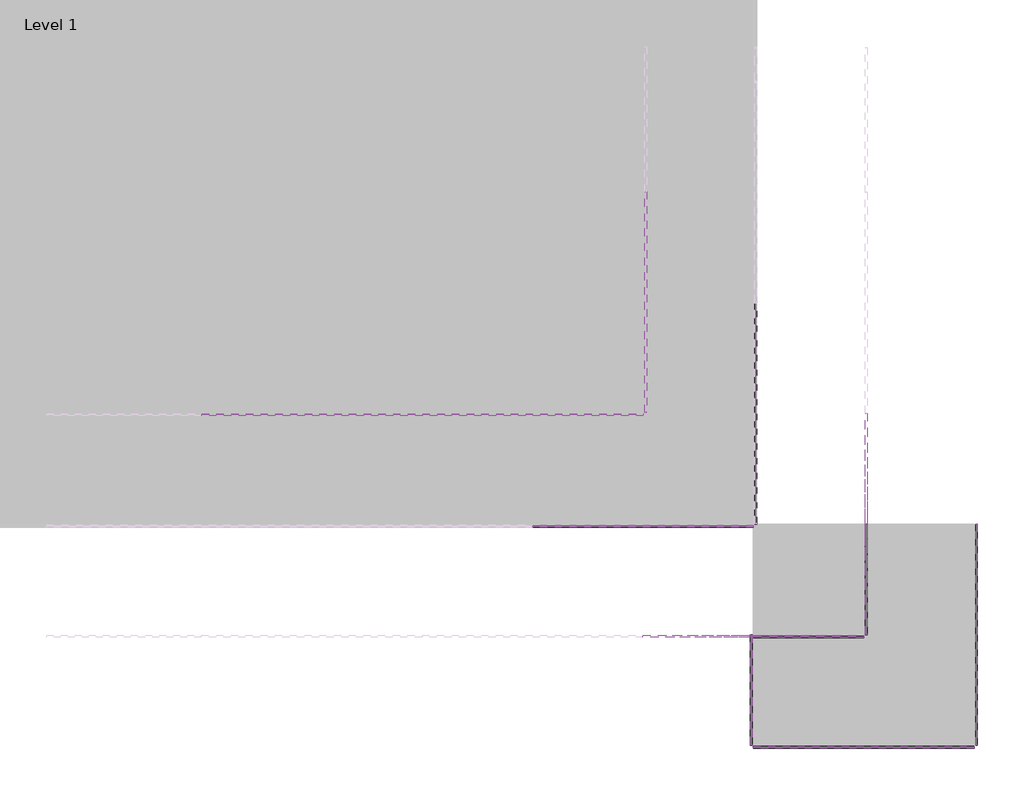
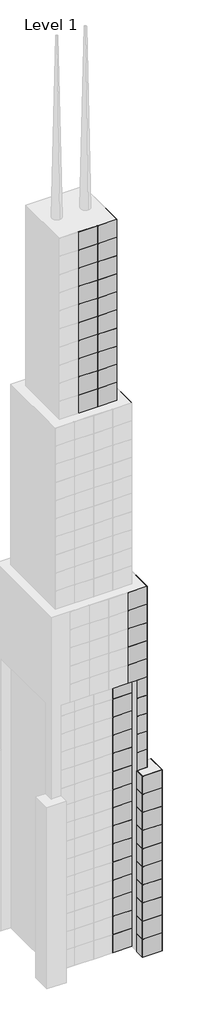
# One storey, part 3 of 15: 137 plates.
"""IFC4 building model written with IfcOpenShell, lengths in millimetres."""

from ifc_helpers import new_model, si_unit, origin, place, context, project, spatial, transform, mapped, element, save
from components import system_panel_glazed_9c75bc08, system_panel_glazed_0a0842ec, system_panel_glazed_aa64d645, system_panel_glazed_b248394d

model = new_model("IFC4")

# Units and contexts
model_context = context("Model", 3, world=origin())
ifc_project = project(units=[si_unit("LENGTHUNIT", "METRE", prefix="MILLI")], contexts=[model_context])

# Site, building, storey
site = spatial("IfcSite", under=ifc_project)
building = spatial("IfcBuilding", under=site)
storey = spatial("IfcBuildingStorey", under=building, Name="Level 1", Elevation=0.0)

# Plates
placement = place(None, origin())
system_panel_glazed_shape = system_panel_glazed_9c75bc08(model_context)
element("IfcPlate", 1, ObjectType="System Panel : Glazed", at=placement, inside=storey, context=model_context, shape_type="MappedRepresentation", body=[
    mapped(system_panel_glazed_shape, transform((-5599.4161695, -4980.0504489, 0.0), x_axis=(0.0, 1.0, 0.0), y_axis=(-1.0, 0.0, 0.0), z_axis=(0.0, 0.0, 1.0))),
])
element("IfcPlate", 2, ObjectType="System Panel : Glazed", at=placement, inside=storey, context=model_context, shape_type="MappedRepresentation", body=[
    mapped(system_panel_glazed_shape, transform((-5599.4161695, -4980.0504489, 3048.0), x_axis=(0.0, 1.0, 0.0), y_axis=(-1.0, 0.0, 0.0), z_axis=(0.0, 0.0, 1.0))),
])
element("IfcPlate", 3, ObjectType="System Panel : Glazed", at=placement, inside=storey, context=model_context, shape_type="MappedRepresentation", body=[
    mapped(system_panel_glazed_shape, transform((-5599.4161695, -4980.0504489, 6096.0), x_axis=(0.0, 1.0, 0.0), y_axis=(-1.0, 0.0, 0.0), z_axis=(0.0, 0.0, 1.0))),
])
element("IfcPlate", 4, ObjectType="System Panel : Glazed", at=placement, inside=storey, context=model_context, shape_type="MappedRepresentation", body=[
    mapped(system_panel_glazed_shape, transform((-5599.4161695, -4980.0504489, 9144.0), x_axis=(0.0, 1.0, 0.0), y_axis=(-1.0, 0.0, 0.0), z_axis=(0.0, 0.0, 1.0))),
])
element("IfcPlate", 5, ObjectType="System Panel : Glazed", at=placement, inside=storey, context=model_context, shape_type="MappedRepresentation", body=[
    mapped(system_panel_glazed_shape, transform((-5599.4161695, -4980.0504489, 12192.0), x_axis=(0.0, 1.0, 0.0), y_axis=(-1.0, 0.0, 0.0), z_axis=(0.0, 0.0, 1.0))),
])
element("IfcPlate", 6, ObjectType="System Panel : Glazed", at=placement, inside=storey, context=model_context, shape_type="MappedRepresentation", body=[
    mapped(system_panel_glazed_shape, transform((-5599.4161695, -4980.0504489, 15240.0), x_axis=(0.0, 1.0, 0.0), y_axis=(-1.0, 0.0, 0.0), z_axis=(0.0, 0.0, 1.0))),
])
element("IfcPlate", 7, ObjectType="System Panel : Glazed", at=placement, inside=storey, context=model_context, shape_type="MappedRepresentation", body=[
    mapped(system_panel_glazed_shape, transform((-5599.4161695, -4980.0504489, 18288.0), x_axis=(0.0, 1.0, 0.0), y_axis=(-1.0, 0.0, 0.0), z_axis=(0.0, 0.0, 1.0))),
])
element("IfcPlate", 8, ObjectType="System Panel : Glazed", at=placement, inside=storey, context=model_context, shape_type="MappedRepresentation", body=[
    mapped(system_panel_glazed_shape, transform((-5599.4161695, -4980.0504489, 21336.0), x_axis=(0.0, 1.0, 0.0), y_axis=(-1.0, 0.0, 0.0), z_axis=(0.0, 0.0, 1.0))),
])
element("IfcPlate", 9, ObjectType="System Panel : Glazed", at=placement, inside=storey, context=model_context, shape_type="MappedRepresentation", body=[
    mapped(system_panel_glazed_shape, transform((-5599.4161695, -4980.0504489, 24384.0), x_axis=(0.0, 1.0, 0.0), y_axis=(-1.0, 0.0, 0.0), z_axis=(0.0, 0.0, 1.0))),
])
element("IfcPlate", 10, ObjectType="System Panel : Glazed", at=placement, inside=storey, context=model_context, shape_type="MappedRepresentation", body=[
    mapped(system_panel_glazed_shape, transform((-5599.4161695, -4980.0504489, 27432.0), x_axis=(0.0, 1.0, 0.0), y_axis=(-1.0, 0.0, 0.0), z_axis=(0.0, 0.0, 1.0))),
])
element("IfcPlate", 11, ObjectType="System Panel : Glazed", at=placement, inside=storey, context=model_context, shape_type="MappedRepresentation", body=[
    mapped(system_panel_glazed_shape, transform((-5599.4161695, -4980.0504489, 30480.0), x_axis=(0.0, 1.0, 0.0), y_axis=(-1.0, 0.0, 0.0), z_axis=(0.0, 0.0, 1.0))),
])
element("IfcPlate", 12, ObjectType="System Panel : Glazed", at=placement, inside=storey, context=model_context, shape_type="MappedRepresentation", body=[
    mapped(system_panel_glazed_shape, transform((-5599.4161695, -4980.0504489, 33528.0), x_axis=(0.0, 1.0, 0.0), y_axis=(-1.0, 0.0, 0.0), z_axis=(0.0, 0.0, 1.0))),
])
element("IfcPlate", 13, ObjectType="System Panel : Glazed", at=placement, inside=storey, context=model_context, shape_type="MappedRepresentation", body=[
    mapped(system_panel_glazed_shape, transform((-5599.4161695, -4980.0504489, 36576.0), x_axis=(0.0, 1.0, 0.0), y_axis=(-1.0, 0.0, 0.0), z_axis=(0.0, 0.0, 1.0))),
])
element("IfcPlate", 14, ObjectType="System Panel : Glazed", at=placement, inside=storey, context=model_context, shape_type="MappedRepresentation", body=[
    mapped(system_panel_glazed_shape, transform((-5599.4161695, -4980.0504489, 39624.0), x_axis=(0.0, 1.0, 0.0), y_axis=(-1.0, 0.0, 0.0), z_axis=(0.0, 0.0, 1.0))),
])
element("IfcPlate", 15, ObjectType="System Panel : Glazed", at=placement, inside=storey, context=model_context, shape_type="MappedRepresentation", body=[
    mapped(system_panel_glazed_shape, transform((-5599.4161695, -4980.0504489, 42672.0), x_axis=(0.0, 1.0, 0.0), y_axis=(-1.0, 0.0, 0.0), z_axis=(0.0, 0.0, 1.0))),
])
element("IfcPlate", 16, ObjectType="System Panel : Glazed", at=placement, inside=storey, context=model_context, shape_type="MappedRepresentation", body=[
    mapped(system_panel_glazed_shape, transform((-6361.4161695, -5742.0504489, 0.0), x_axis=(1.0, 0.0, 0.0), y_axis=(0.0, 1.0, 0.0), z_axis=(0.0, 0.0, 1.0))),
])
element("IfcPlate", 17, ObjectType="System Panel : Glazed", at=placement, inside=storey, context=model_context, shape_type="MappedRepresentation", body=[
    mapped(system_panel_glazed_shape, transform((-6361.4161695, -5742.0504489, 3048.0), x_axis=(1.0, 0.0, 0.0), y_axis=(0.0, 1.0, 0.0), z_axis=(0.0, 0.0, 1.0))),
])
element("IfcPlate", 18, ObjectType="System Panel : Glazed", at=placement, inside=storey, context=model_context, shape_type="MappedRepresentation", body=[
    mapped(system_panel_glazed_shape, transform((-6361.4161695, -5742.0504489, 6096.0), x_axis=(1.0, 0.0, 0.0), y_axis=(0.0, 1.0, 0.0), z_axis=(0.0, 0.0, 1.0))),
])
element("IfcPlate", 19, ObjectType="System Panel : Glazed", at=placement, inside=storey, context=model_context, shape_type="MappedRepresentation", body=[
    mapped(system_panel_glazed_shape, transform((-6361.4161695, -5742.0504489, 9144.0), x_axis=(1.0, 0.0, 0.0), y_axis=(0.0, 1.0, 0.0), z_axis=(0.0, 0.0, 1.0))),
])
element("IfcPlate", 20, ObjectType="System Panel : Glazed", at=placement, inside=storey, context=model_context, shape_type="MappedRepresentation", body=[
    mapped(system_panel_glazed_shape, transform((-6361.4161695, -5742.0504489, 12192.0), x_axis=(1.0, 0.0, 0.0), y_axis=(0.0, 1.0, 0.0), z_axis=(0.0, 0.0, 1.0))),
])
element("IfcPlate", 21, ObjectType="System Panel : Glazed", at=placement, inside=storey, context=model_context, shape_type="MappedRepresentation", body=[
    mapped(system_panel_glazed_shape, transform((-6361.4161695, -5742.0504489, 15240.0), x_axis=(1.0, 0.0, 0.0), y_axis=(0.0, 1.0, 0.0), z_axis=(0.0, 0.0, 1.0))),
])
element("IfcPlate", 22, ObjectType="System Panel : Glazed", at=placement, inside=storey, context=model_context, shape_type="MappedRepresentation", body=[
    mapped(system_panel_glazed_shape, transform((-6361.4161695, -5742.0504489, 18288.0), x_axis=(1.0, 0.0, 0.0), y_axis=(0.0, 1.0, 0.0), z_axis=(0.0, 0.0, 1.0))),
])
element("IfcPlate", 23, ObjectType="System Panel : Glazed", at=placement, inside=storey, context=model_context, shape_type="MappedRepresentation", body=[
    mapped(system_panel_glazed_shape, transform((-6361.4161695, -5742.0504489, 21336.0), x_axis=(1.0, 0.0, 0.0), y_axis=(0.0, 1.0, 0.0), z_axis=(0.0, 0.0, 1.0))),
])
element("IfcPlate", 24, ObjectType="System Panel : Glazed", at=placement, inside=storey, context=model_context, shape_type="MappedRepresentation", body=[
    mapped(system_panel_glazed_shape, transform((-6361.4161695, -5742.0504489, 24384.0), x_axis=(1.0, 0.0, 0.0), y_axis=(0.0, 1.0, 0.0), z_axis=(0.0, 0.0, 1.0))),
])
element("IfcPlate", 25, ObjectType="System Panel : Glazed", at=placement, inside=storey, context=model_context, shape_type="MappedRepresentation", body=[
    mapped(system_panel_glazed_shape, transform((-6361.4161695, -5742.0504489, 27432.0), x_axis=(1.0, 0.0, 0.0), y_axis=(0.0, 1.0, 0.0), z_axis=(0.0, 0.0, 1.0))),
])
element("IfcPlate", 26, ObjectType="System Panel : Glazed", at=placement, inside=storey, context=model_context, shape_type="MappedRepresentation", body=[
    mapped(system_panel_glazed_shape, transform((-6361.4161695, -5742.0504489, 30480.0), x_axis=(1.0, 0.0, 0.0), y_axis=(0.0, 1.0, 0.0), z_axis=(0.0, 0.0, 1.0))),
])
element("IfcPlate", 27, ObjectType="System Panel : Glazed", at=placement, inside=storey, context=model_context, shape_type="MappedRepresentation", body=[
    mapped(system_panel_glazed_shape, transform((-6361.4161695, -5742.0504489, 33528.0), x_axis=(1.0, 0.0, 0.0), y_axis=(0.0, 1.0, 0.0), z_axis=(0.0, 0.0, 1.0))),
])
element("IfcPlate", 28, ObjectType="System Panel : Glazed", at=placement, inside=storey, context=model_context, shape_type="MappedRepresentation", body=[
    mapped(system_panel_glazed_shape, transform((-6361.4161695, -5742.0504489, 36576.0), x_axis=(1.0, 0.0, 0.0), y_axis=(0.0, 1.0, 0.0), z_axis=(0.0, 0.0, 1.0))),
])
element("IfcPlate", 29, ObjectType="System Panel : Glazed", at=placement, inside=storey, context=model_context, shape_type="MappedRepresentation", body=[
    mapped(system_panel_glazed_shape, transform((-6361.4161695, -5742.0504489, 39624.0), x_axis=(1.0, 0.0, 0.0), y_axis=(0.0, 1.0, 0.0), z_axis=(0.0, 0.0, 1.0))),
])
element("IfcPlate", 30, ObjectType="System Panel : Glazed", at=placement, inside=storey, context=model_context, shape_type="MappedRepresentation", body=[
    mapped(system_panel_glazed_shape, transform((-6361.4161695, -5742.0504489, 42672.0), x_axis=(1.0, 0.0, 0.0), y_axis=(0.0, 1.0, 0.0), z_axis=(0.0, 0.0, 1.0))),
])
element("IfcPlate", 31, ObjectType="System Panel : Glazed", at=placement, inside=storey, context=model_context, shape_type="MappedRepresentation", body=[
    mapped(system_panel_glazed_shape, transform((-7123.4161695, -6504.0504489, 0.0), x_axis=(0.0, -1.0, 0.0), y_axis=(1.0, 0.0, 0.0), z_axis=(0.0, 0.0, 1.0))),
])
element("IfcPlate", 32, ObjectType="System Panel : Glazed", at=placement, inside=storey, context=model_context, shape_type="MappedRepresentation", body=[
    mapped(system_panel_glazed_shape, transform((-7123.4161695, -6504.0504489, 3048.0), x_axis=(0.0, -1.0, 0.0), y_axis=(1.0, 0.0, 0.0), z_axis=(0.0, 0.0, 1.0))),
])
element("IfcPlate", 33, ObjectType="System Panel : Glazed", at=placement, inside=storey, context=model_context, shape_type="MappedRepresentation", body=[
    mapped(system_panel_glazed_shape, transform((-7123.4161695, -6504.0504489, 6096.0), x_axis=(0.0, -1.0, 0.0), y_axis=(1.0, 0.0, 0.0), z_axis=(0.0, 0.0, 1.0))),
])
element("IfcPlate", 34, ObjectType="System Panel : Glazed", at=placement, inside=storey, context=model_context, shape_type="MappedRepresentation", body=[
    mapped(system_panel_glazed_shape, transform((-7123.4161695, -6504.0504489, 9144.0), x_axis=(0.0, -1.0, 0.0), y_axis=(1.0, 0.0, 0.0), z_axis=(0.0, 0.0, 1.0))),
])
element("IfcPlate", 35, ObjectType="System Panel : Glazed", at=placement, inside=storey, context=model_context, shape_type="MappedRepresentation", body=[
    mapped(system_panel_glazed_shape, transform((-7123.4161695, -6504.0504489, 12192.0), x_axis=(0.0, -1.0, 0.0), y_axis=(1.0, 0.0, 0.0), z_axis=(0.0, 0.0, 1.0))),
])
element("IfcPlate", 36, ObjectType="System Panel : Glazed", at=placement, inside=storey, context=model_context, shape_type="MappedRepresentation", body=[
    mapped(system_panel_glazed_shape, transform((-7123.4161695, -6504.0504489, 15240.0), x_axis=(0.0, -1.0, 0.0), y_axis=(1.0, 0.0, 0.0), z_axis=(0.0, 0.0, 1.0))),
])
element("IfcPlate", 37, ObjectType="System Panel : Glazed", at=placement, inside=storey, context=model_context, shape_type="MappedRepresentation", body=[
    mapped(system_panel_glazed_shape, transform((-7123.4161695, -6504.0504489, 18288.0), x_axis=(0.0, -1.0, 0.0), y_axis=(1.0, 0.0, 0.0), z_axis=(0.0, 0.0, 1.0))),
])
element("IfcPlate", 38, ObjectType="System Panel : Glazed", at=placement, inside=storey, context=model_context, shape_type="MappedRepresentation", body=[
    mapped(system_panel_glazed_shape, transform((-7123.4161695, -6504.0504489, 21336.0), x_axis=(0.0, -1.0, 0.0), y_axis=(1.0, 0.0, 0.0), z_axis=(0.0, 0.0, 1.0))),
])
element("IfcPlate", 39, ObjectType="System Panel : Glazed", at=placement, inside=storey, context=model_context, shape_type="MappedRepresentation", body=[
    mapped(system_panel_glazed_shape, transform((-7123.4161695, -6504.0504489, 24384.0), x_axis=(0.0, -1.0, 0.0), y_axis=(1.0, 0.0, 0.0), z_axis=(0.0, 0.0, 1.0))),
])
element("IfcPlate", 40, ObjectType="System Panel : Glazed", at=placement, inside=storey, context=model_context, shape_type="MappedRepresentation", body=[
    mapped(system_panel_glazed_shape, transform((-7123.4161695, -6504.0504489, 27432.0), x_axis=(0.0, -1.0, 0.0), y_axis=(1.0, 0.0, 0.0), z_axis=(0.0, 0.0, 1.0))),
])
system_panel_glazed_2_shape = system_panel_glazed_0a0842ec(model_context)
element("IfcPlate", 41, ObjectType="System Panel : Glazed", at=placement, inside=storey, context=model_context, shape_type="MappedRepresentation", body=[
    mapped(system_panel_glazed_2_shape, transform((-5599.4161695, -4218.0504489, 45720.0), x_axis=(0.0, 1.0, 0.0), y_axis=(-1.0, 0.0, 0.0), z_axis=(0.0, 0.0, 1.0))),
])
element("IfcPlate", 42, ObjectType="System Panel : Glazed", at=placement, inside=storey, context=model_context, shape_type="MappedRepresentation", body=[
    mapped(system_panel_glazed_2_shape, transform((-7123.4161695, -5742.0504489, 45720.0), x_axis=(1.0, 0.0, 0.0), y_axis=(0.0, 1.0, 0.0), z_axis=(0.0, 0.0, 1.0))),
])
system_panel_glazed_3_shape = system_panel_glazed_aa64d645(model_context)
element("IfcPlate", 43, ObjectType="System Panel : Glazed", at=placement, inside=storey, context=model_context, shape_type="MappedRepresentation", body=[
    mapped(system_panel_glazed_3_shape, transform((-5599.4161695, -4218.0504489, 48768.0), x_axis=(0.0, 1.0, 0.0), y_axis=(-1.0, 0.0, 0.0), z_axis=(0.0, 0.0, 1.0))),
])
element("IfcPlate", 44, ObjectType="System Panel : Glazed", at=placement, inside=storey, context=model_context, shape_type="MappedRepresentation", body=[
    mapped(system_panel_glazed_3_shape, transform((-5599.4161695, -4218.0504489, 51816.0), x_axis=(0.0, 1.0, 0.0), y_axis=(-1.0, 0.0, 0.0), z_axis=(0.0, 0.0, 1.0))),
])
element("IfcPlate", 45, ObjectType="System Panel : Glazed", at=placement, inside=storey, context=model_context, shape_type="MappedRepresentation", body=[
    mapped(system_panel_glazed_3_shape, transform((-5599.4161695, -4218.0504489, 54864.0), x_axis=(0.0, 1.0, 0.0), y_axis=(-1.0, 0.0, 0.0), z_axis=(0.0, 0.0, 1.0))),
])
element("IfcPlate", 46, ObjectType="System Panel : Glazed", at=placement, inside=storey, context=model_context, shape_type="MappedRepresentation", body=[
    mapped(system_panel_glazed_3_shape, transform((-5599.4161695, -4218.0504489, 57912.0), x_axis=(0.0, 1.0, 0.0), y_axis=(-1.0, 0.0, 0.0), z_axis=(0.0, 0.0, 1.0))),
])
element("IfcPlate", 47, ObjectType="System Panel : Glazed", at=placement, inside=storey, context=model_context, shape_type="MappedRepresentation", body=[
    mapped(system_panel_glazed_3_shape, transform((-7123.4161695, -5742.0504489, 48768.0), x_axis=(1.0, 0.0, 0.0), y_axis=(0.0, 1.0, 0.0), z_axis=(0.0, 0.0, 1.0))),
])
element("IfcPlate", 48, ObjectType="System Panel : Glazed", at=placement, inside=storey, context=model_context, shape_type="MappedRepresentation", body=[
    mapped(system_panel_glazed_3_shape, transform((-7123.4161695, -5742.0504489, 51816.0), x_axis=(1.0, 0.0, 0.0), y_axis=(0.0, 1.0, 0.0), z_axis=(0.0, 0.0, 1.0))),
])
element("IfcPlate", 49, ObjectType="System Panel : Glazed", at=placement, inside=storey, context=model_context, shape_type="MappedRepresentation", body=[
    mapped(system_panel_glazed_3_shape, transform((-7123.4161695, -5742.0504489, 54864.0), x_axis=(1.0, 0.0, 0.0), y_axis=(0.0, 1.0, 0.0), z_axis=(0.0, 0.0, 1.0))),
])
element("IfcPlate", 50, ObjectType="System Panel : Glazed", at=placement, inside=storey, context=model_context, shape_type="MappedRepresentation", body=[
    mapped(system_panel_glazed_3_shape, transform((-7123.4161695, -5742.0504489, 57912.0), x_axis=(1.0, 0.0, 0.0), y_axis=(0.0, 1.0, 0.0), z_axis=(0.0, 0.0, 1.0))),
])
element("IfcPlate", 51, ObjectType="System Panel : Glazed", at=placement, inside=storey, context=model_context, shape_type="MappedRepresentation", body=[
    mapped(system_panel_glazed_3_shape, transform((-7123.4161695, -2694.0504489, 60960.0), x_axis=(0.0, 1.0, 0.0), y_axis=(-1.0, 0.0, 0.0), z_axis=(0.0, 0.0, 1.0))),
])
element("IfcPlate", 52, ObjectType="System Panel : Glazed", at=placement, inside=storey, context=model_context, shape_type="MappedRepresentation", body=[
    mapped(system_panel_glazed_3_shape, transform((-7123.4161695, -2694.0504489, 64008.0), x_axis=(0.0, 1.0, 0.0), y_axis=(-1.0, 0.0, 0.0), z_axis=(0.0, 0.0, 1.0))),
])
element("IfcPlate", 53, ObjectType="System Panel : Glazed", at=placement, inside=storey, context=model_context, shape_type="MappedRepresentation", body=[
    mapped(system_panel_glazed_3_shape, transform((-7123.4161695, -2694.0504489, 67056.0), x_axis=(0.0, 1.0, 0.0), y_axis=(-1.0, 0.0, 0.0), z_axis=(0.0, 0.0, 1.0))),
])
element("IfcPlate", 54, ObjectType="System Panel : Glazed", at=placement, inside=storey, context=model_context, shape_type="MappedRepresentation", body=[
    mapped(system_panel_glazed_3_shape, transform((-7123.4161695, -2694.0504489, 70104.0), x_axis=(0.0, 1.0, 0.0), y_axis=(-1.0, 0.0, 0.0), z_axis=(0.0, 0.0, 1.0))),
])
element("IfcPlate", 55, ObjectType="System Panel : Glazed", at=placement, inside=storey, context=model_context, shape_type="MappedRepresentation", body=[
    mapped(system_panel_glazed_3_shape, transform((-7123.4161695, -2694.0504489, 73152.0), x_axis=(0.0, 1.0, 0.0), y_axis=(-1.0, 0.0, 0.0), z_axis=(0.0, 0.0, 1.0))),
])
element("IfcPlate", 56, ObjectType="System Panel : Glazed", at=placement, inside=storey, context=model_context, shape_type="MappedRepresentation", body=[
    mapped(system_panel_glazed_3_shape, transform((-7123.4161695, -2694.0504489, 76200.0), x_axis=(0.0, 1.0, 0.0), y_axis=(-1.0, 0.0, 0.0), z_axis=(0.0, 0.0, 1.0))),
])
element("IfcPlate", 57, ObjectType="System Panel : Glazed", at=placement, inside=storey, context=model_context, shape_type="MappedRepresentation", body=[
    mapped(system_panel_glazed_3_shape, transform((-7123.4161695, -2694.0504489, 79248.0), x_axis=(0.0, 1.0, 0.0), y_axis=(-1.0, 0.0, 0.0), z_axis=(0.0, 0.0, 1.0))),
])
element("IfcPlate", 58, ObjectType="System Panel : Glazed", at=placement, inside=storey, context=model_context, shape_type="MappedRepresentation", body=[
    mapped(system_panel_glazed_3_shape, transform((-7123.4161695, -2694.0504489, 82296.0), x_axis=(0.0, 1.0, 0.0), y_axis=(-1.0, 0.0, 0.0), z_axis=(0.0, 0.0, 1.0))),
])
element("IfcPlate", 59, ObjectType="System Panel : Glazed", at=placement, inside=storey, context=model_context, shape_type="MappedRepresentation", body=[
    mapped(system_panel_glazed_3_shape, transform((-7123.4161695, -2694.0504489, 85344.0), x_axis=(0.0, 1.0, 0.0), y_axis=(-1.0, 0.0, 0.0), z_axis=(0.0, 0.0, 1.0))),
])
element("IfcPlate", 60, ObjectType="System Panel : Glazed", at=placement, inside=storey, context=model_context, shape_type="MappedRepresentation", body=[
    mapped(system_panel_glazed_3_shape, transform((-7123.4161695, -2694.0504489, 88392.0), x_axis=(0.0, 1.0, 0.0), y_axis=(-1.0, 0.0, 0.0), z_axis=(0.0, 0.0, 1.0))),
])
element("IfcPlate", 61, ObjectType="System Panel : Glazed", at=placement, inside=storey, context=model_context, shape_type="MappedRepresentation", body=[
    mapped(system_panel_glazed_3_shape, transform((-8641.8488996, -1170.0504489, 91440.0), x_axis=(0.0, 1.0, 0.0), y_axis=(-1.0, 0.0, 0.0), z_axis=(0.0, 0.0, 1.0))),
])
element("IfcPlate", 62, ObjectType="System Panel : Glazed", at=placement, inside=storey, context=model_context, shape_type="MappedRepresentation", body=[
    mapped(system_panel_glazed_3_shape, transform((-8641.8488996, -1170.0504489, 94488.0), x_axis=(0.0, 1.0, 0.0), y_axis=(-1.0, 0.0, 0.0), z_axis=(0.0, 0.0, 1.0))),
])
element("IfcPlate", 63, ObjectType="System Panel : Glazed", at=placement, inside=storey, context=model_context, shape_type="MappedRepresentation", body=[
    mapped(system_panel_glazed_3_shape, transform((-8641.8488996, -1170.0504489, 97536.0), x_axis=(0.0, 1.0, 0.0), y_axis=(-1.0, 0.0, 0.0), z_axis=(0.0, 0.0, 1.0))),
])
element("IfcPlate", 64, ObjectType="System Panel : Glazed", at=placement, inside=storey, context=model_context, shape_type="MappedRepresentation", body=[
    mapped(system_panel_glazed_3_shape, transform((-8641.8488996, -1170.0504489, 100584.0), x_axis=(0.0, 1.0, 0.0), y_axis=(-1.0, 0.0, 0.0), z_axis=(0.0, 0.0, 1.0))),
])
element("IfcPlate", 65, ObjectType="System Panel : Glazed", at=placement, inside=storey, context=model_context, shape_type="MappedRepresentation", body=[
    mapped(system_panel_glazed_3_shape, transform((-8641.8488996, -1170.0504489, 103632.0), x_axis=(0.0, 1.0, 0.0), y_axis=(-1.0, 0.0, 0.0), z_axis=(0.0, 0.0, 1.0))),
])
element("IfcPlate", 66, ObjectType="System Panel : Glazed", at=placement, inside=storey, context=model_context, shape_type="MappedRepresentation", body=[
    mapped(system_panel_glazed_3_shape, transform((-8641.8488996, -1170.0504489, 106680.0), x_axis=(0.0, 1.0, 0.0), y_axis=(-1.0, 0.0, 0.0), z_axis=(0.0, 0.0, 1.0))),
])
element("IfcPlate", 67, ObjectType="System Panel : Glazed", at=placement, inside=storey, context=model_context, shape_type="MappedRepresentation", body=[
    mapped(system_panel_glazed_3_shape, transform((-8641.8488996, -1170.0504489, 109728.0), x_axis=(0.0, 1.0, 0.0), y_axis=(-1.0, 0.0, 0.0), z_axis=(0.0, 0.0, 1.0))),
])
element("IfcPlate", 68, ObjectType="System Panel : Glazed", at=placement, inside=storey, context=model_context, shape_type="MappedRepresentation", body=[
    mapped(system_panel_glazed_3_shape, transform((-8641.8488996, -1170.0504489, 112776.0), x_axis=(0.0, 1.0, 0.0), y_axis=(-1.0, 0.0, 0.0), z_axis=(0.0, 0.0, 1.0))),
])
element("IfcPlate", 69, ObjectType="System Panel : Glazed", at=placement, inside=storey, context=model_context, shape_type="MappedRepresentation", body=[
    mapped(system_panel_glazed_3_shape, transform((-8641.8488996, -1170.0504489, 115824.0), x_axis=(0.0, 1.0, 0.0), y_axis=(-1.0, 0.0, 0.0), z_axis=(0.0, 0.0, 1.0))),
])
element("IfcPlate", 70, ObjectType="System Panel : Glazed", at=placement, inside=storey, context=model_context, shape_type="MappedRepresentation", body=[
    mapped(system_panel_glazed_3_shape, transform((-8641.8488996, -1170.0504489, 118872.0), x_axis=(0.0, 1.0, 0.0), y_axis=(-1.0, 0.0, 0.0), z_axis=(0.0, 0.0, 1.0))),
])
element("IfcPlate", 71, ObjectType="System Panel : Glazed", at=placement, inside=storey, context=model_context, shape_type="MappedRepresentation", body=[
    mapped(system_panel_glazed_3_shape, transform((-13213.8488996, -2694.0504489, 91440.0), x_axis=(1.0, 0.0, 0.0), y_axis=(0.0, 1.0, 0.0), z_axis=(0.0, 0.0, 1.0))),
])
element("IfcPlate", 72, ObjectType="System Panel : Glazed", at=placement, inside=storey, context=model_context, shape_type="MappedRepresentation", body=[
    mapped(system_panel_glazed_3_shape, transform((-10165.8488996, -2694.0504489, 91440.0), x_axis=(1.0, 0.0, 0.0), y_axis=(0.0, 1.0, 0.0), z_axis=(0.0, 0.0, 1.0))),
])
element("IfcPlate", 73, ObjectType="System Panel : Glazed", at=placement, inside=storey, context=model_context, shape_type="MappedRepresentation", body=[
    mapped(system_panel_glazed_3_shape, transform((-13213.8488996, -2694.0504489, 94488.0), x_axis=(1.0, 0.0, 0.0), y_axis=(0.0, 1.0, 0.0), z_axis=(0.0, 0.0, 1.0))),
])
element("IfcPlate", 74, ObjectType="System Panel : Glazed", at=placement, inside=storey, context=model_context, shape_type="MappedRepresentation", body=[
    mapped(system_panel_glazed_3_shape, transform((-10165.8488996, -2694.0504489, 94488.0), x_axis=(1.0, 0.0, 0.0), y_axis=(0.0, 1.0, 0.0), z_axis=(0.0, 0.0, 1.0))),
])
element("IfcPlate", 75, ObjectType="System Panel : Glazed", at=placement, inside=storey, context=model_context, shape_type="MappedRepresentation", body=[
    mapped(system_panel_glazed_3_shape, transform((-13213.8488996, -2694.0504489, 97536.0), x_axis=(1.0, 0.0, 0.0), y_axis=(0.0, 1.0, 0.0), z_axis=(0.0, 0.0, 1.0))),
])
element("IfcPlate", 76, ObjectType="System Panel : Glazed", at=placement, inside=storey, context=model_context, shape_type="MappedRepresentation", body=[
    mapped(system_panel_glazed_3_shape, transform((-10165.8488996, -2694.0504489, 97536.0), x_axis=(1.0, 0.0, 0.0), y_axis=(0.0, 1.0, 0.0), z_axis=(0.0, 0.0, 1.0))),
])
element("IfcPlate", 77, ObjectType="System Panel : Glazed", at=placement, inside=storey, context=model_context, shape_type="MappedRepresentation", body=[
    mapped(system_panel_glazed_3_shape, transform((-13213.8488996, -2694.0504489, 100584.0), x_axis=(1.0, 0.0, 0.0), y_axis=(0.0, 1.0, 0.0), z_axis=(0.0, 0.0, 1.0))),
])
element("IfcPlate", 78, ObjectType="System Panel : Glazed", at=placement, inside=storey, context=model_context, shape_type="MappedRepresentation", body=[
    mapped(system_panel_glazed_3_shape, transform((-10165.8488996, -2694.0504489, 100584.0), x_axis=(1.0, 0.0, 0.0), y_axis=(0.0, 1.0, 0.0), z_axis=(0.0, 0.0, 1.0))),
])
element("IfcPlate", 79, ObjectType="System Panel : Glazed", at=placement, inside=storey, context=model_context, shape_type="MappedRepresentation", body=[
    mapped(system_panel_glazed_3_shape, transform((-13213.8488996, -2694.0504489, 103632.0), x_axis=(1.0, 0.0, 0.0), y_axis=(0.0, 1.0, 0.0), z_axis=(0.0, 0.0, 1.0))),
])
element("IfcPlate", 80, ObjectType="System Panel : Glazed", at=placement, inside=storey, context=model_context, shape_type="MappedRepresentation", body=[
    mapped(system_panel_glazed_3_shape, transform((-10165.8488996, -2694.0504489, 103632.0), x_axis=(1.0, 0.0, 0.0), y_axis=(0.0, 1.0, 0.0), z_axis=(0.0, 0.0, 1.0))),
])
element("IfcPlate", 81, ObjectType="System Panel : Glazed", at=placement, inside=storey, context=model_context, shape_type="MappedRepresentation", body=[
    mapped(system_panel_glazed_3_shape, transform((-13213.8488996, -2694.0504489, 106680.0), x_axis=(1.0, 0.0, 0.0), y_axis=(0.0, 1.0, 0.0), z_axis=(0.0, 0.0, 1.0))),
])
element("IfcPlate", 82, ObjectType="System Panel : Glazed", at=placement, inside=storey, context=model_context, shape_type="MappedRepresentation", body=[
    mapped(system_panel_glazed_3_shape, transform((-10165.8488996, -2694.0504489, 106680.0), x_axis=(1.0, 0.0, 0.0), y_axis=(0.0, 1.0, 0.0), z_axis=(0.0, 0.0, 1.0))),
])
element("IfcPlate", 83, ObjectType="System Panel : Glazed", at=placement, inside=storey, context=model_context, shape_type="MappedRepresentation", body=[
    mapped(system_panel_glazed_3_shape, transform((-13213.8488996, -2694.0504489, 109728.0), x_axis=(1.0, 0.0, 0.0), y_axis=(0.0, 1.0, 0.0), z_axis=(0.0, 0.0, 1.0))),
])
element("IfcPlate", 84, ObjectType="System Panel : Glazed", at=placement, inside=storey, context=model_context, shape_type="MappedRepresentation", body=[
    mapped(system_panel_glazed_3_shape, transform((-10165.8488996, -2694.0504489, 109728.0), x_axis=(1.0, 0.0, 0.0), y_axis=(0.0, 1.0, 0.0), z_axis=(0.0, 0.0, 1.0))),
])
element("IfcPlate", 85, ObjectType="System Panel : Glazed", at=placement, inside=storey, context=model_context, shape_type="MappedRepresentation", body=[
    mapped(system_panel_glazed_3_shape, transform((-13213.8488996, -2694.0504489, 112776.0), x_axis=(1.0, 0.0, 0.0), y_axis=(0.0, 1.0, 0.0), z_axis=(0.0, 0.0, 1.0))),
])
element("IfcPlate", 86, ObjectType="System Panel : Glazed", at=placement, inside=storey, context=model_context, shape_type="MappedRepresentation", body=[
    mapped(system_panel_glazed_3_shape, transform((-10165.8488996, -2694.0504489, 112776.0), x_axis=(1.0, 0.0, 0.0), y_axis=(0.0, 1.0, 0.0), z_axis=(0.0, 0.0, 1.0))),
])
element("IfcPlate", 87, ObjectType="System Panel : Glazed", at=placement, inside=storey, context=model_context, shape_type="MappedRepresentation", body=[
    mapped(system_panel_glazed_3_shape, transform((-13213.8488996, -2694.0504489, 115824.0), x_axis=(1.0, 0.0, 0.0), y_axis=(0.0, 1.0, 0.0), z_axis=(0.0, 0.0, 1.0))),
])
element("IfcPlate", 88, ObjectType="System Panel : Glazed", at=placement, inside=storey, context=model_context, shape_type="MappedRepresentation", body=[
    mapped(system_panel_glazed_3_shape, transform((-10165.8488996, -2694.0504489, 115824.0), x_axis=(1.0, 0.0, 0.0), y_axis=(0.0, 1.0, 0.0), z_axis=(0.0, 0.0, 1.0))),
])
element("IfcPlate", 89, ObjectType="System Panel : Glazed", at=placement, inside=storey, context=model_context, shape_type="MappedRepresentation", body=[
    mapped(system_panel_glazed_3_shape, transform((-13213.8488996, -2694.0504489, 118872.0), x_axis=(1.0, 0.0, 0.0), y_axis=(0.0, 1.0, 0.0), z_axis=(0.0, 0.0, 1.0))),
])
element("IfcPlate", 90, ObjectType="System Panel : Glazed", at=placement, inside=storey, context=model_context, shape_type="MappedRepresentation", body=[
    mapped(system_panel_glazed_3_shape, transform((-10165.8488996, -2694.0504489, 118872.0), x_axis=(1.0, 0.0, 0.0), y_axis=(0.0, 1.0, 0.0), z_axis=(0.0, 0.0, 1.0))),
])
element("IfcPlate", 91, ObjectType="System Panel : Glazed", at=placement, inside=storey, context=model_context, shape_type="MappedRepresentation", body=[
    mapped(system_panel_glazed_3_shape, transform((-4075.4161695, -5742.0504489, 0.0), x_axis=(0.0, 1.0, 0.0), y_axis=(-1.0, 0.0, 0.0), z_axis=(0.0, 0.0, 1.0))),
])
element("IfcPlate", 92, ObjectType="System Panel : Glazed", at=placement, inside=storey, context=model_context, shape_type="MappedRepresentation", body=[
    mapped(system_panel_glazed_3_shape, transform((-4075.4161695, -5742.0504489, 3048.0), x_axis=(0.0, 1.0, 0.0), y_axis=(-1.0, 0.0, 0.0), z_axis=(0.0, 0.0, 1.0))),
])
element("IfcPlate", 93, ObjectType="System Panel : Glazed", at=placement, inside=storey, context=model_context, shape_type="MappedRepresentation", body=[
    mapped(system_panel_glazed_3_shape, transform((-4075.4161695, -5742.0504489, 6096.0), x_axis=(0.0, 1.0, 0.0), y_axis=(-1.0, 0.0, 0.0), z_axis=(0.0, 0.0, 1.0))),
])
element("IfcPlate", 94, ObjectType="System Panel : Glazed", at=placement, inside=storey, context=model_context, shape_type="MappedRepresentation", body=[
    mapped(system_panel_glazed_3_shape, transform((-4075.4161695, -5742.0504489, 9144.0), x_axis=(0.0, 1.0, 0.0), y_axis=(-1.0, 0.0, 0.0), z_axis=(0.0, 0.0, 1.0))),
])
element("IfcPlate", 95, ObjectType="System Panel : Glazed", at=placement, inside=storey, context=model_context, shape_type="MappedRepresentation", body=[
    mapped(system_panel_glazed_3_shape, transform((-4075.4161695, -5742.0504489, 12192.0), x_axis=(0.0, 1.0, 0.0), y_axis=(-1.0, 0.0, 0.0), z_axis=(0.0, 0.0, 1.0))),
])
element("IfcPlate", 96, ObjectType="System Panel : Glazed", at=placement, inside=storey, context=model_context, shape_type="MappedRepresentation", body=[
    mapped(system_panel_glazed_3_shape, transform((-4075.4161695, -5742.0504489, 15240.0), x_axis=(0.0, 1.0, 0.0), y_axis=(-1.0, 0.0, 0.0), z_axis=(0.0, 0.0, 1.0))),
])
element("IfcPlate", 97, ObjectType="System Panel : Glazed", at=placement, inside=storey, context=model_context, shape_type="MappedRepresentation", body=[
    mapped(system_panel_glazed_3_shape, transform((-4075.4161695, -5742.0504489, 18288.0), x_axis=(0.0, 1.0, 0.0), y_axis=(-1.0, 0.0, 0.0), z_axis=(0.0, 0.0, 1.0))),
])
element("IfcPlate", 98, ObjectType="System Panel : Glazed", at=placement, inside=storey, context=model_context, shape_type="MappedRepresentation", body=[
    mapped(system_panel_glazed_3_shape, transform((-4075.4161695, -5742.0504489, 21336.0), x_axis=(0.0, 1.0, 0.0), y_axis=(-1.0, 0.0, 0.0), z_axis=(0.0, 0.0, 1.0))),
])
element("IfcPlate", 99, ObjectType="System Panel : Glazed", at=placement, inside=storey, context=model_context, shape_type="MappedRepresentation", body=[
    mapped(system_panel_glazed_3_shape, transform((-4075.4161695, -5742.0504489, 24384.0), x_axis=(0.0, 1.0, 0.0), y_axis=(-1.0, 0.0, 0.0), z_axis=(0.0, 0.0, 1.0))),
])
element("IfcPlate", 100, ObjectType="System Panel : Glazed", at=placement, inside=storey, context=model_context, shape_type="MappedRepresentation", body=[
    mapped(system_panel_glazed_3_shape, transform((-4075.4161695, -5742.0504489, 27432.0), x_axis=(0.0, 1.0, 0.0), y_axis=(-1.0, 0.0, 0.0), z_axis=(0.0, 0.0, 1.0))),
])
element("IfcPlate", 101, ObjectType="System Panel : Glazed", at=placement, inside=storey, context=model_context, shape_type="MappedRepresentation", body=[
    mapped(system_panel_glazed_3_shape, transform((-5599.4161695, -7266.0504489, 0.0), x_axis=(1.0, 0.0, 0.0), y_axis=(0.0, 1.0, 0.0), z_axis=(0.0, 0.0, 1.0))),
])
element("IfcPlate", 102, ObjectType="System Panel : Glazed", at=placement, inside=storey, context=model_context, shape_type="MappedRepresentation", body=[
    mapped(system_panel_glazed_3_shape, transform((-5599.4161695, -7266.0504489, 3048.0), x_axis=(1.0, 0.0, 0.0), y_axis=(0.0, 1.0, 0.0), z_axis=(0.0, 0.0, 1.0))),
])
element("IfcPlate", 103, ObjectType="System Panel : Glazed", at=placement, inside=storey, context=model_context, shape_type="MappedRepresentation", body=[
    mapped(system_panel_glazed_3_shape, transform((-5599.4161695, -7266.0504489, 6096.0), x_axis=(1.0, 0.0, 0.0), y_axis=(0.0, 1.0, 0.0), z_axis=(0.0, 0.0, 1.0))),
])
element("IfcPlate", 104, ObjectType="System Panel : Glazed", at=placement, inside=storey, context=model_context, shape_type="MappedRepresentation", body=[
    mapped(system_panel_glazed_3_shape, transform((-5599.4161695, -7266.0504489, 9144.0), x_axis=(1.0, 0.0, 0.0), y_axis=(0.0, 1.0, 0.0), z_axis=(0.0, 0.0, 1.0))),
])
element("IfcPlate", 105, ObjectType="System Panel : Glazed", at=placement, inside=storey, context=model_context, shape_type="MappedRepresentation", body=[
    mapped(system_panel_glazed_3_shape, transform((-5599.4161695, -7266.0504489, 12192.0), x_axis=(1.0, 0.0, 0.0), y_axis=(0.0, 1.0, 0.0), z_axis=(0.0, 0.0, 1.0))),
])
element("IfcPlate", 106, ObjectType="System Panel : Glazed", at=placement, inside=storey, context=model_context, shape_type="MappedRepresentation", body=[
    mapped(system_panel_glazed_3_shape, transform((-5599.4161695, -7266.0504489, 15240.0), x_axis=(1.0, 0.0, 0.0), y_axis=(0.0, 1.0, 0.0), z_axis=(0.0, 0.0, 1.0))),
])
element("IfcPlate", 107, ObjectType="System Panel : Glazed", at=placement, inside=storey, context=model_context, shape_type="MappedRepresentation", body=[
    mapped(system_panel_glazed_3_shape, transform((-5599.4161695, -7266.0504489, 18288.0), x_axis=(1.0, 0.0, 0.0), y_axis=(0.0, 1.0, 0.0), z_axis=(0.0, 0.0, 1.0))),
])
element("IfcPlate", 108, ObjectType="System Panel : Glazed", at=placement, inside=storey, context=model_context, shape_type="MappedRepresentation", body=[
    mapped(system_panel_glazed_3_shape, transform((-5599.4161695, -7266.0504489, 21336.0), x_axis=(1.0, 0.0, 0.0), y_axis=(0.0, 1.0, 0.0), z_axis=(0.0, 0.0, 1.0))),
])
element("IfcPlate", 109, ObjectType="System Panel : Glazed", at=placement, inside=storey, context=model_context, shape_type="MappedRepresentation", body=[
    mapped(system_panel_glazed_3_shape, transform((-5599.4161695, -7266.0504489, 24384.0), x_axis=(1.0, 0.0, 0.0), y_axis=(0.0, 1.0, 0.0), z_axis=(0.0, 0.0, 1.0))),
])
element("IfcPlate", 110, ObjectType="System Panel : Glazed", at=placement, inside=storey, context=model_context, shape_type="MappedRepresentation", body=[
    mapped(system_panel_glazed_3_shape, transform((-5599.4161695, -7266.0504489, 27432.0), x_axis=(1.0, 0.0, 0.0), y_axis=(0.0, 1.0, 0.0), z_axis=(0.0, 0.0, 1.0))),
])
system_panel_glazed_4_shape = system_panel_glazed_b248394d(model_context)
element("IfcPlate", 111, ObjectType="System Panel : Glazed", at=placement, inside=storey, context=model_context, shape_type="MappedRepresentation", body=[
    mapped(system_panel_glazed_4_shape, transform((-8647.4161695, -4218.0504489, 0.0), x_axis=(-1.0, 0.0, 0.0), y_axis=(0.0, -1.0, 0.0), z_axis=(0.0, 0.0, 1.0))),
])
element("IfcPlate", 112, ObjectType="System Panel : Glazed", at=placement, inside=storey, context=model_context, shape_type="MappedRepresentation", body=[
    mapped(system_panel_glazed_4_shape, transform((-8647.4161695, -4218.0504489, 3048.0), x_axis=(-1.0, 0.0, 0.0), y_axis=(0.0, -1.0, 0.0), z_axis=(0.0, 0.0, 1.0))),
])
element("IfcPlate", 113, ObjectType="System Panel : Glazed", at=placement, inside=storey, context=model_context, shape_type="MappedRepresentation", body=[
    mapped(system_panel_glazed_4_shape, transform((-8647.4161695, -4218.0504489, 6096.0), x_axis=(-1.0, 0.0, 0.0), y_axis=(0.0, -1.0, 0.0), z_axis=(0.0, 0.0, 1.0))),
])
element("IfcPlate", 114, ObjectType="System Panel : Glazed", at=placement, inside=storey, context=model_context, shape_type="MappedRepresentation", body=[
    mapped(system_panel_glazed_4_shape, transform((-8647.4161695, -4218.0504489, 9144.0), x_axis=(-1.0, 0.0, 0.0), y_axis=(0.0, -1.0, 0.0), z_axis=(0.0, 0.0, 1.0))),
])
element("IfcPlate", 115, ObjectType="System Panel : Glazed", at=placement, inside=storey, context=model_context, shape_type="MappedRepresentation", body=[
    mapped(system_panel_glazed_4_shape, transform((-8647.4161695, -4218.0504489, 12192.0), x_axis=(-1.0, 0.0, 0.0), y_axis=(0.0, -1.0, 0.0), z_axis=(0.0, 0.0, 1.0))),
])
element("IfcPlate", 116, ObjectType="System Panel : Glazed", at=placement, inside=storey, context=model_context, shape_type="MappedRepresentation", body=[
    mapped(system_panel_glazed_4_shape, transform((-8647.4161695, -4218.0504489, 15240.0), x_axis=(-1.0, 0.0, 0.0), y_axis=(0.0, -1.0, 0.0), z_axis=(0.0, 0.0, 1.0))),
])
element("IfcPlate", 117, ObjectType="System Panel : Glazed", at=placement, inside=storey, context=model_context, shape_type="MappedRepresentation", body=[
    mapped(system_panel_glazed_4_shape, transform((-8647.4161695, -4218.0504489, 18288.0), x_axis=(-1.0, 0.0, 0.0), y_axis=(0.0, -1.0, 0.0), z_axis=(0.0, 0.0, 1.0))),
])
element("IfcPlate", 118, ObjectType="System Panel : Glazed", at=placement, inside=storey, context=model_context, shape_type="MappedRepresentation", body=[
    mapped(system_panel_glazed_4_shape, transform((-8647.4161695, -4218.0504489, 21336.0), x_axis=(-1.0, 0.0, 0.0), y_axis=(0.0, -1.0, 0.0), z_axis=(0.0, 0.0, 1.0))),
])
element("IfcPlate", 119, ObjectType="System Panel : Glazed", at=placement, inside=storey, context=model_context, shape_type="MappedRepresentation", body=[
    mapped(system_panel_glazed_4_shape, transform((-8647.4161695, -4218.0504489, 24384.0), x_axis=(-1.0, 0.0, 0.0), y_axis=(0.0, -1.0, 0.0), z_axis=(0.0, 0.0, 1.0))),
])
element("IfcPlate", 120, ObjectType="System Panel : Glazed", at=placement, inside=storey, context=model_context, shape_type="MappedRepresentation", body=[
    mapped(system_panel_glazed_4_shape, transform((-8647.4161695, -4218.0504489, 27432.0), x_axis=(-1.0, 0.0, 0.0), y_axis=(0.0, -1.0, 0.0), z_axis=(0.0, 0.0, 1.0))),
])
element("IfcPlate", 121, ObjectType="System Panel : Glazed", at=placement, inside=storey, context=model_context, shape_type="MappedRepresentation", body=[
    mapped(system_panel_glazed_4_shape, transform((-8647.4161695, -4218.0504489, 30480.0), x_axis=(-1.0, 0.0, 0.0), y_axis=(0.0, -1.0, 0.0), z_axis=(0.0, 0.0, 1.0))),
])
element("IfcPlate", 122, ObjectType="System Panel : Glazed", at=placement, inside=storey, context=model_context, shape_type="MappedRepresentation", body=[
    mapped(system_panel_glazed_4_shape, transform((-8647.4161695, -4218.0504489, 33528.0), x_axis=(-1.0, 0.0, 0.0), y_axis=(0.0, -1.0, 0.0), z_axis=(0.0, 0.0, 1.0))),
])
element("IfcPlate", 123, ObjectType="System Panel : Glazed", at=placement, inside=storey, context=model_context, shape_type="MappedRepresentation", body=[
    mapped(system_panel_glazed_4_shape, transform((-8647.4161695, -4218.0504489, 36576.0), x_axis=(-1.0, 0.0, 0.0), y_axis=(0.0, -1.0, 0.0), z_axis=(0.0, 0.0, 1.0))),
])
element("IfcPlate", 124, ObjectType="System Panel : Glazed", at=placement, inside=storey, context=model_context, shape_type="MappedRepresentation", body=[
    mapped(system_panel_glazed_4_shape, transform((-8647.4161695, -4218.0504489, 39624.0), x_axis=(-1.0, 0.0, 0.0), y_axis=(0.0, -1.0, 0.0), z_axis=(0.0, 0.0, 1.0))),
])
element("IfcPlate", 125, ObjectType="System Panel : Glazed", at=placement, inside=storey, context=model_context, shape_type="MappedRepresentation", body=[
    mapped(system_panel_glazed_4_shape, transform((-8647.4161695, -4218.0504489, 42672.0), x_axis=(-1.0, 0.0, 0.0), y_axis=(0.0, -1.0, 0.0), z_axis=(0.0, 0.0, 1.0))),
])
element("IfcPlate", 126, ObjectType="System Panel : Glazed", at=placement, inside=storey, context=model_context, shape_type="MappedRepresentation", body=[
    mapped(system_panel_glazed_4_shape, transform((-7123.4161695, -2694.0504489, 0.0), x_axis=(0.0, -1.0, 0.0), y_axis=(1.0, 0.0, 0.0), z_axis=(0.0, 0.0, 1.0))),
])
element("IfcPlate", 127, ObjectType="System Panel : Glazed", at=placement, inside=storey, context=model_context, shape_type="MappedRepresentation", body=[
    mapped(system_panel_glazed_4_shape, transform((-7123.4161695, -2694.0504489, 3048.0), x_axis=(0.0, -1.0, 0.0), y_axis=(1.0, 0.0, 0.0), z_axis=(0.0, 0.0, 1.0))),
])
element("IfcPlate", 128, ObjectType="System Panel : Glazed", at=placement, inside=storey, context=model_context, shape_type="MappedRepresentation", body=[
    mapped(system_panel_glazed_4_shape, transform((-7123.4161695, -2694.0504489, 6096.0), x_axis=(0.0, -1.0, 0.0), y_axis=(1.0, 0.0, 0.0), z_axis=(0.0, 0.0, 1.0))),
])
element("IfcPlate", 129, ObjectType="System Panel : Glazed", at=placement, inside=storey, context=model_context, shape_type="MappedRepresentation", body=[
    mapped(system_panel_glazed_4_shape, transform((-7123.4161695, -2694.0504489, 9144.0), x_axis=(0.0, -1.0, 0.0), y_axis=(1.0, 0.0, 0.0), z_axis=(0.0, 0.0, 1.0))),
])
element("IfcPlate", 130, ObjectType="System Panel : Glazed", at=placement, inside=storey, context=model_context, shape_type="MappedRepresentation", body=[
    mapped(system_panel_glazed_4_shape, transform((-7123.4161695, -2694.0504489, 12192.0), x_axis=(0.0, -1.0, 0.0), y_axis=(1.0, 0.0, 0.0), z_axis=(0.0, 0.0, 1.0))),
])
element("IfcPlate", 131, ObjectType="System Panel : Glazed", at=placement, inside=storey, context=model_context, shape_type="MappedRepresentation", body=[
    mapped(system_panel_glazed_4_shape, transform((-7123.4161695, -2694.0504489, 15240.0), x_axis=(0.0, -1.0, 0.0), y_axis=(1.0, 0.0, 0.0), z_axis=(0.0, 0.0, 1.0))),
])
element("IfcPlate", 132, ObjectType="System Panel : Glazed", at=placement, inside=storey, context=model_context, shape_type="MappedRepresentation", body=[
    mapped(system_panel_glazed_4_shape, transform((-7123.4161695, -2694.0504489, 18288.0), x_axis=(0.0, -1.0, 0.0), y_axis=(1.0, 0.0, 0.0), z_axis=(0.0, 0.0, 1.0))),
])
element("IfcPlate", 133, ObjectType="System Panel : Glazed", at=placement, inside=storey, context=model_context, shape_type="MappedRepresentation", body=[
    mapped(system_panel_glazed_4_shape, transform((-7123.4161695, -2694.0504489, 21336.0), x_axis=(0.0, -1.0, 0.0), y_axis=(1.0, 0.0, 0.0), z_axis=(0.0, 0.0, 1.0))),
])
element("IfcPlate", 134, ObjectType="System Panel : Glazed", at=placement, inside=storey, context=model_context, shape_type="MappedRepresentation", body=[
    mapped(system_panel_glazed_4_shape, transform((-7123.4161695, -2694.0504489, 24384.0), x_axis=(0.0, -1.0, 0.0), y_axis=(1.0, 0.0, 0.0), z_axis=(0.0, 0.0, 1.0))),
])
element("IfcPlate", 135, ObjectType="System Panel : Glazed", at=placement, inside=storey, context=model_context, shape_type="MappedRepresentation", body=[
    mapped(system_panel_glazed_4_shape, transform((-7123.4161695, -2694.0504489, 27432.0), x_axis=(0.0, -1.0, 0.0), y_axis=(1.0, 0.0, 0.0), z_axis=(0.0, 0.0, 1.0))),
])
element("IfcPlate", 136, ObjectType="System Panel : Glazed", at=placement, inside=storey, context=model_context, shape_type="MappedRepresentation", body=[
    mapped(system_panel_glazed_4_shape, transform((-7123.4161695, -2694.0504489, 30480.0), x_axis=(0.0, -1.0, 0.0), y_axis=(1.0, 0.0, 0.0), z_axis=(0.0, 0.0, 1.0))),
])
element("IfcPlate", 137, ObjectType="System Panel : Glazed", at=placement, inside=storey, context=model_context, shape_type="MappedRepresentation", body=[
    mapped(system_panel_glazed_4_shape, transform((-7123.4161695, -2694.0504489, 33528.0), x_axis=(0.0, -1.0, 0.0), y_axis=(1.0, 0.0, 0.0), z_axis=(0.0, 0.0, 1.0))),
])

save(model, "model.ifc")
